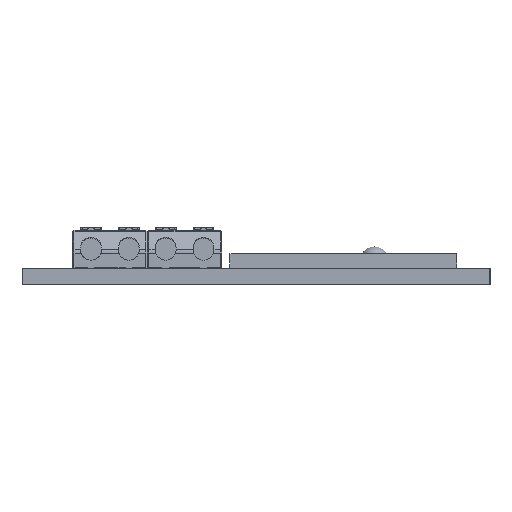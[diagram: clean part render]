
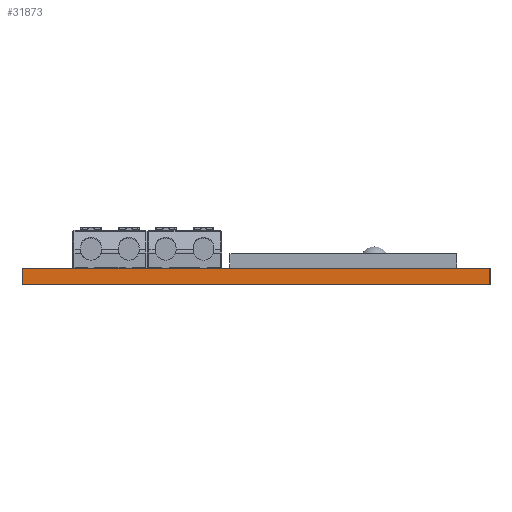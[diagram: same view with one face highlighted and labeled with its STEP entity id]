
A CAD part, left-side view. The second image highlights one B-rep face of the part: STEP entity #31873.
In plain terms, the highlighted planar face has unit normal (-1, 0, 0).
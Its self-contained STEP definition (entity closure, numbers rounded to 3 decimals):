
#876=LINE('',#46836,#4098);
#3391=LINE('',#55674,#6613);
#3392=LINE('',#55677,#6614);
#3393=LINE('',#55678,#6615);
#4098=VECTOR('',#35759,10.);
#6613=VECTOR('',#41716,10.);
#6614=VECTOR('',#41719,10.);
#6615=VECTOR('',#41720,10.);
#9505=FACE_OUTER_BOUND('',#11429,.T.);
#11429=EDGE_LOOP('',(#27980,#27981,#27982,#27983));
#12993=VERTEX_POINT('',#46829);
#12996=VERTEX_POINT('',#46834);
#15050=VERTEX_POINT('',#55672);
#15051=VERTEX_POINT('',#55676);
#16254=EDGE_CURVE('',#12996,#12993,#876,.T.);
#19395=EDGE_CURVE('',#12996,#15050,#3391,.T.);
#19396=EDGE_CURVE('',#15051,#15050,#3392,.T.);
#19397=EDGE_CURVE('',#12993,#15051,#3393,.T.);
#27980=ORIENTED_EDGE('',*,*,#16254,.F.);
#27981=ORIENTED_EDGE('',*,*,#19395,.T.);
#27982=ORIENTED_EDGE('',*,*,#19396,.F.);
#27983=ORIENTED_EDGE('',*,*,#19397,.F.);
#29203=PLANE('',#34141);
#31873=ADVANCED_FACE('',(#9505),#29203,.T.);
#34141=AXIS2_PLACEMENT_3D('',#55675,#41717,#41718);
#35759=DIRECTION('',(0.,-1.,0.));
#41716=DIRECTION('',(0.,0.,-1.));
#41717=DIRECTION('center_axis',(-1.,0.,0.));
#41718=DIRECTION('ref_axis',(0.,1.,0.));
#41719=DIRECTION('',(0.,1.,0.));
#41720=DIRECTION('',(0.,0.,-1.));
#46829=CARTESIAN_POINT('',(0.,0.,0.));
#46834=CARTESIAN_POINT('',(0.,49.5,0.));
#46836=CARTESIAN_POINT('',(0.,49.5,0.));
#55672=CARTESIAN_POINT('',(0.,49.5,-1.7));
#55674=CARTESIAN_POINT('',(0.,49.5,0.));
#55675=CARTESIAN_POINT('Origin',(0.,0.,0.));
#55676=CARTESIAN_POINT('',(0.,0.,-1.7));
#55677=CARTESIAN_POINT('',(0.,49.5,-1.7));
#55678=CARTESIAN_POINT('',(0.,0.,0.));
